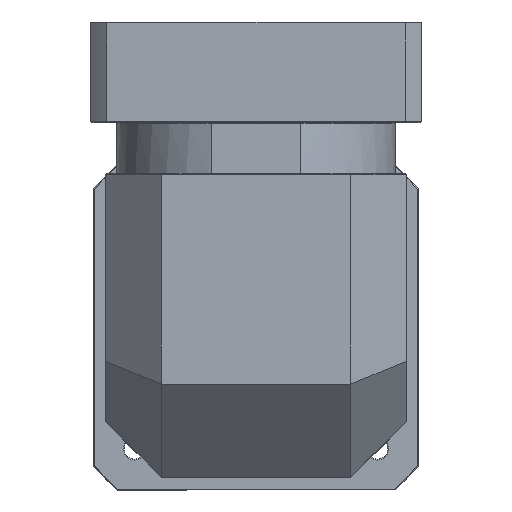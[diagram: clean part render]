
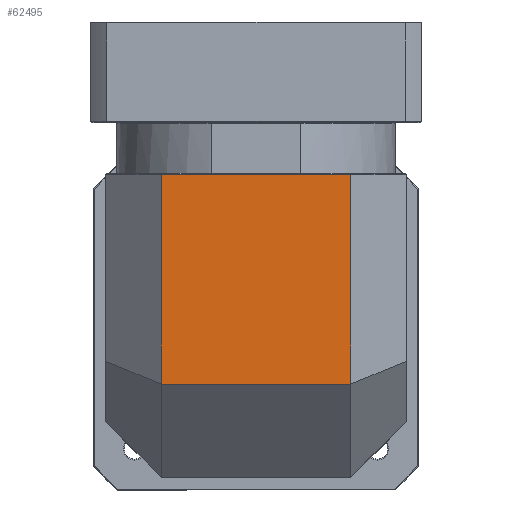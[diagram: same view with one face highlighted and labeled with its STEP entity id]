
A CAD part, top view. The second image highlights one B-rep face of the part: STEP entity #62495.
In plain terms, the highlighted planar face has unit normal (0, 0, 1).
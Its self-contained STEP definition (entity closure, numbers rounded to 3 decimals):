
#2841 = CARTESIAN_POINT ( 'NONE',  ( -125.034, 69.281, 54.757 ) ) ;
#4589 = LINE ( 'NONE', #7103, #127582 ) ;
#7103 = CARTESIAN_POINT ( 'NONE',  ( -95.034, 101.031, 54.757 ) ) ;
#9168 = ORIENTED_EDGE ( 'NONE', *, *, #13013, .T. ) ;
#13013 = EDGE_CURVE ( 'NONE', #29829, #88747, #135728, .T. ) ;
#25485 = ORIENTED_EDGE ( 'NONE', *, *, #70576, .F. ) ;
#28979 = DIRECTION ( 'NONE',  ( 0., 1., 0. ) ) ;
#29566 = CARTESIAN_POINT ( 'NONE',  ( -95.034, 182.281, 54.757 ) ) ;
#29829 = VERTEX_POINT ( 'NONE', #72114 ) ;
#38693 = CARTESIAN_POINT ( 'NONE',  ( 6.966, 182.781, 54.757 ) ) ;
#38846 = VECTOR ( 'NONE', #84986, 1000. ) ;
#49000 = VERTEX_POINT ( 'NONE', #133441 ) ;
#49420 = FACE_OUTER_BOUND ( 'NONE', #130499, .T. ) ;
#50216 = DIRECTION ( 'NONE',  ( 0., 1., 0. ) ) ;
#50626 = EDGE_CURVE ( 'NONE', #49000, #29829, #51165, .T. ) ;
#51165 = LINE ( 'NONE', #38693, #56017 ) ;
#56017 = VECTOR ( 'NONE', #28979, 1000. ) ;
#57330 = AXIS2_PLACEMENT_3D ( 'NONE', #124903, #73551, #63063 ) ;
#59432 = VERTEX_POINT ( 'NONE', #116183 ) ;
#62495 = ADVANCED_FACE ( 'NONE', ( #49420 ), #124434, .F. ) ;
#63063 = DIRECTION ( 'NONE',  ( 1., 0., 0. ) ) ;
#67481 = ORIENTED_EDGE ( 'NONE', *, *, #121867, .T. ) ;
#68369 = LINE ( 'NONE', #2841, #94644 ) ;
#70576 = EDGE_CURVE ( 'NONE', #59432, #88747, #4589, .T. ) ;
#72114 = CARTESIAN_POINT ( 'NONE',  ( 6.966, 182.281, 54.757 ) ) ;
#73551 = DIRECTION ( 'NONE',  ( 0., 0., -1. ) ) ;
#76237 = DIRECTION ( 'NONE',  ( 1., 0., 0. ) ) ;
#84986 = DIRECTION ( 'NONE',  ( -1., 0., 0. ) ) ;
#88747 = VERTEX_POINT ( 'NONE', #29566 ) ;
#94644 = VECTOR ( 'NONE', #76237, 1000. ) ;
#108014 = ORIENTED_EDGE ( 'NONE', *, *, #50626, .T. ) ;
#116183 = CARTESIAN_POINT ( 'NONE',  ( -95.034, 69.281, 54.757 ) ) ;
#121867 = EDGE_CURVE ( 'NONE', #59432, #49000, #68369, .T. ) ;
#124434 = PLANE ( 'NONE',  #57330 ) ;
#124903 = CARTESIAN_POINT ( 'NONE',  ( -125.034, 182.781, 54.757 ) ) ;
#127170 = CARTESIAN_POINT ( 'NONE',  ( -125.034, 182.281, 54.757 ) ) ;
#127582 = VECTOR ( 'NONE', #50216, 1000. ) ;
#130499 = EDGE_LOOP ( 'NONE', ( #108014, #9168, #25485, #67481 ) ) ;
#133441 = CARTESIAN_POINT ( 'NONE',  ( 6.966, 69.281, 54.757 ) ) ;
#135728 = LINE ( 'NONE', #127170, #38846 ) ;
